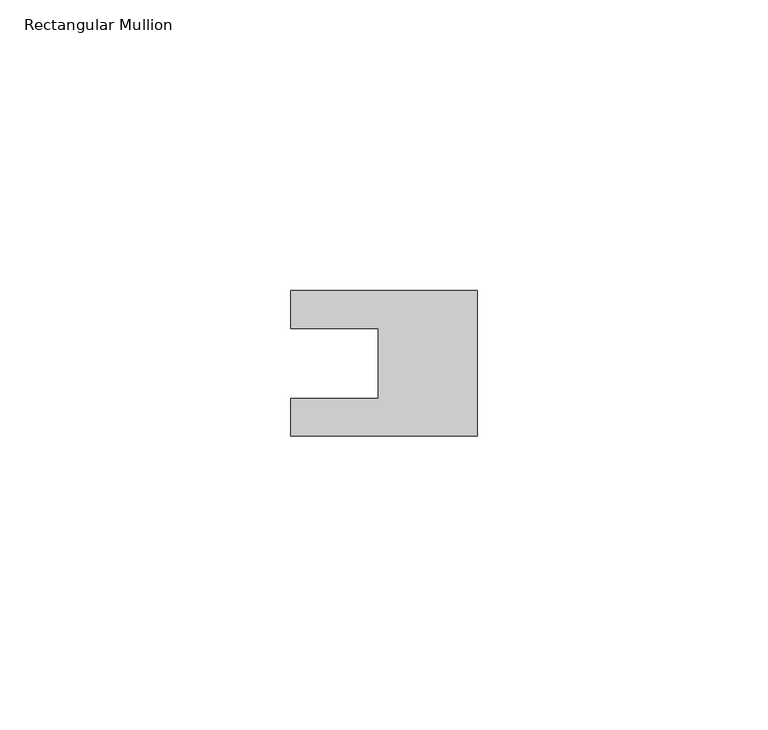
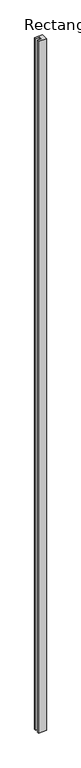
"""IFC4 building model written with IfcOpenShell, lengths in millimetres: member geometry, Rectangular Mullion : 22_IM_CF_38_MAS."""

from ifc_helpers import new_model, si_unit, frame, origin, place, context, project, spatial, polyline, outline, extrude, source, transform, mapped, element, save


def rectangular_mullion_e158b8b9(model_context):
    return source(origin(), model_context, "Body", "SweptSolid", [
        extrude(outline(polyline([(0.0, 12.5), (0.0, -12.5), (-32.0, -12.5), (-32.0, -6.0), (-17.0, -6.0), (-17.0, 6.0), (-32.0, 6.0), (-32.0, 12.5), (0.0, 12.5)])), frame((0.0, 0.0, -2917.0), z_axis=(0.0, 0.0, 1.0), x_axis=(1.0, 0.0, 0.0)), (0.0, 0.0, 1.0), 2917.0),
    ])


if __name__ == "__main__":
    model = new_model("IFC4")
    model_context = context("Model", 3, world=origin())
    ifc_project = project(units=[si_unit("LENGTHUNIT", "METRE", prefix="MILLI")], contexts=[model_context])
    site = spatial("IfcSite", under=ifc_project)
    building = spatial("IfcBuilding", under=site)
    placement = place(None, origin())
    rectangular_mullion_shape = rectangular_mullion_e158b8b9(model_context)
    element("IfcMember", 1, ObjectType="Rectangular Mullion : 22_IM_CF_38_MAS", at=placement, inside=building, context=model_context, shape_type="MappedRepresentation", body=[
        mapped(rectangular_mullion_shape, transform((0.0, 0.0, 0.0), x_axis=(1.0, 0.0, 0.0), y_axis=(0.0, 1.0, 0.0), z_axis=(0.0, 0.0, 1.0))),
    ])
    save(model, "model.ifc")
